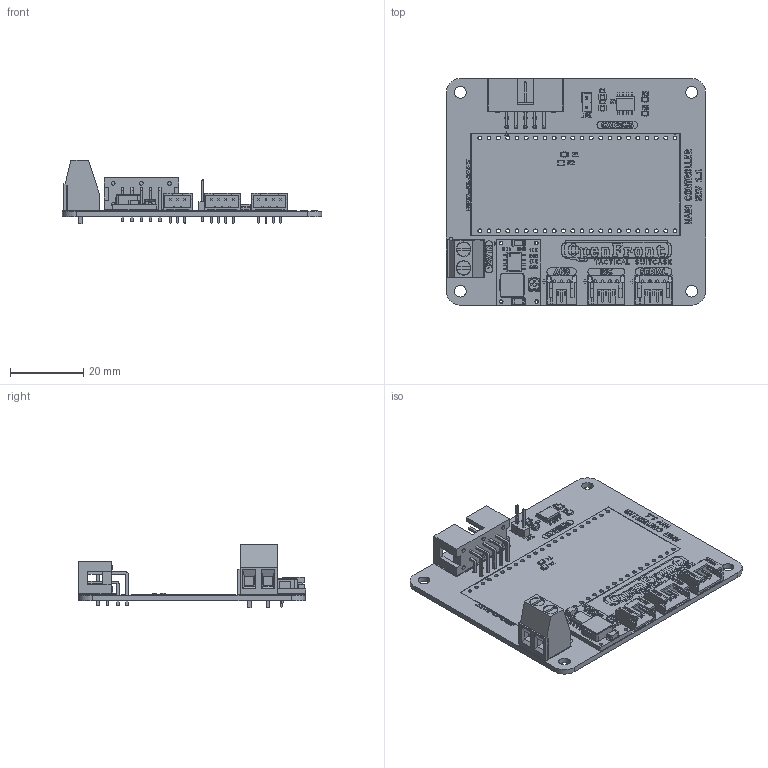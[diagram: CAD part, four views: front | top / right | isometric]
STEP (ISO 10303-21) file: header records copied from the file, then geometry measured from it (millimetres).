
FILE_DESCRIPTION(('KiCad electronic assembly'),'2;1');
FILE_NAME('controller.step','2026-02-03T15:17:11',('Pcbnew'),('Kicad'), 'Open CASCADE STEP processor 7.8','KiCad to STEP converter','Unknown' );
FILE_SCHEMA(('AUTOMOTIVE_DESIGN { 1 0 10303 214 1 1 1 1 }'));
Length unit declared in the file: millimetre
Products named in the file (23): controller 1; JST_PH_S4B-PH-K_1x04_P2.00mm_Horizontal; C_0805_2012Metric; R_0805_2012Metric; mini360; User Library-SOIC-8 - TEK v1; Resistor 0603 v1; CAPC0603 v1; CAPC1206 v1; IHLP2525 v4; Part 1; Part 1 (1); Part 2; EVM-3E v2; SOLID; PinHeader_1x02_P2.54mm_Vertical; IDC-Header_2x05_P2.54mm_Horizontal; TerminalBlock_Phoenix_MKDS-1,5-2-5.08_1x02_P5.08mm_Horizontal; JST_PH_S3B-PH-K_1x03_P2.00mm_Horizontal; TJA1050; controller_layout_silkscreen; controller_layout_PCB; controller 2
Assembly tree (31 placements, depth 4):
  controller 1
    JST_PH_S4B-PH-K_1x04_P2.00mm_Horizontal  x2
    C_0805_2012Metric  x2
    R_0805_2012Metric  x4
    mini360
      User Library-SOIC-8 - TEK v1
      Resistor 0603 v1  x3
      CAPC0603 v1  x3
      CAPC1206 v1  x2
      IHLP2525 v4
        Part 1
        Part 1 (1)
        Part 2
      EVM-3E v2
      SOLID
    PinHeader_1x02_P2.54mm_Vertical
    IDC-Header_2x05_P2.54mm_Horizontal
    TerminalBlock_Phoenix_MKDS-1,5-2-5.08_1x02_P5.08mm_Horizontal
    JST_PH_S3B-PH-K_1x03_P2.00mm_Horizontal
    TJA1050
    controller_layout_silkscreen
    controller_layout_PCB
  controller 2
Bounding box: 70.87 x 62.09 x 17.3 mm (x, y, z)
Volume: 9287.2 mm3; surface area: 15210.9 mm2
Topology: 70 solids, 228 shells, 2339 faces, 9673 edges, 7682 vertices
Faces by surface type: plane 1599, bspline 406, cylinder 323, torus 4, sphere 4, cone 3
Full cylindrical faces by diameter (mm): 0.5 x1, 0.75 x11, 0.762 x4, 1 x22, 1.02 x44, 1.3 x2, 3.2 x4, 3.8 x2, 4 x2
Entity records: 91050 total; most frequent: CARTESIAN_POINT 19779, DIRECTION 11955, ORIENTED_EDGE 11841, EDGE_CURVE 7949, VERTEX_POINT 6562, LINE 6443, VECTOR 6443, AXIS2_PLACEMENT_3D 2756
